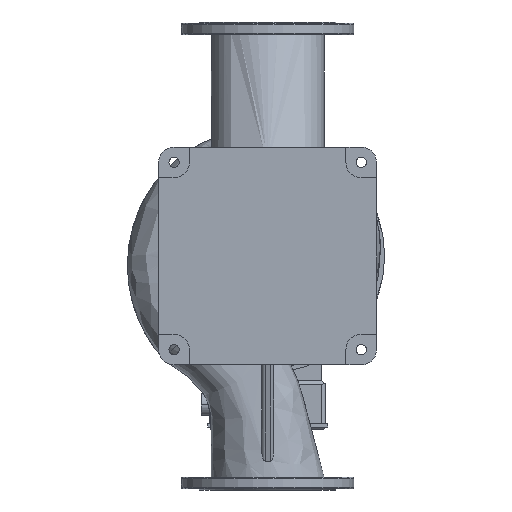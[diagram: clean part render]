
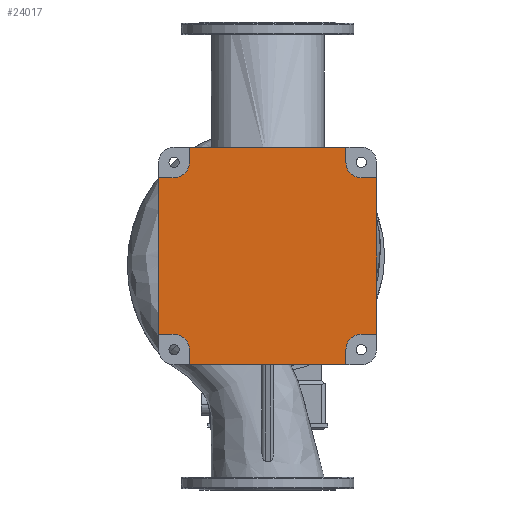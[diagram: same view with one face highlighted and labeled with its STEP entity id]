
A CAD part, front view. The second image highlights one B-rep face of the part: STEP entity #24017.
In plain terms, the highlighted planar face has unit normal (0, -1, 0).
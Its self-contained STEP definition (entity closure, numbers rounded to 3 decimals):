
#206 = CIRCLE ( 'NONE', #3620, 36. ) ;
#363 = VECTOR ( 'NONE', #19562, 1000. ) ;
#365 = CIRCLE ( 'NONE', #20382, 36. ) ;
#947 = ORIENTED_EDGE ( 'NONE', *, *, #5290, .T. ) ;
#1268 = EDGE_CURVE ( 'NONE', #28407, #1900, #18909, .T. ) ;
#1366 = VECTOR ( 'NONE', #1627, 1000. ) ;
#1627 = DIRECTION ( 'NONE',  ( 1., 0., 0. ) ) ;
#1850 = VERTEX_POINT ( 'NONE', #33059 ) ;
#1900 = VERTEX_POINT ( 'NONE', #27664 ) ;
#1933 = EDGE_CURVE ( 'NONE', #1850, #28407, #28373, .T. ) ;
#2550 = LINE ( 'NONE', #18853, #22668 ) ;
#2614 = DIRECTION ( 'NONE',  ( 0., 0., 1. ) ) ;
#2653 = DIRECTION ( 'NONE',  ( 0., 0., 1. ) ) ;
#2705 = ORIENTED_EDGE ( 'NONE', *, *, #25470, .T. ) ;
#2847 = VERTEX_POINT ( 'NONE', #24256 ) ;
#3620 = AXIS2_PLACEMENT_3D ( 'NONE', #18561, #13550, #2614 ) ;
#4035 = CARTESIAN_POINT ( 'NONE',  ( -256., -295., -184. ) ) ;
#4393 = CARTESIAN_POINT ( 'NONE',  ( -184., -295., 220. ) ) ;
#4562 = ORIENTED_EDGE ( 'NONE', *, *, #15443, .T. ) ;
#4995 = DIRECTION ( 'NONE',  ( -1., 0., 0. ) ) ;
#5106 = DIRECTION ( 'NONE',  ( 0., 0., 1. ) ) ;
#5144 = VECTOR ( 'NONE', #32191, 1000. ) ;
#5290 = EDGE_CURVE ( 'NONE', #19087, #16352, #21449, .T. ) ;
#5344 = CARTESIAN_POINT ( 'NONE',  ( -184., -295., 256. ) ) ;
#6198 = EDGE_CURVE ( 'NONE', #28721, #14593, #18804, .T. ) ;
#6584 = CARTESIAN_POINT ( 'NONE',  ( 256., -295., -184. ) ) ;
#6931 = DIRECTION ( 'NONE',  ( 0., 0., -1. ) ) ;
#7057 = DIRECTION ( 'NONE',  ( 0., 0., 1. ) ) ;
#7066 = PLANE ( 'NONE',  #19263 ) ;
#7423 = DIRECTION ( 'NONE',  ( 0., 1., 0. ) ) ;
#7488 = LINE ( 'NONE', #15564, #35282 ) ;
#7498 = VECTOR ( 'NONE', #30529, 1000. ) ;
#8739 = CARTESIAN_POINT ( 'NONE',  ( 220., -295., -184. ) ) ;
#8894 = LINE ( 'NONE', #4035, #10956 ) ;
#9600 = ORIENTED_EDGE ( 'NONE', *, *, #29263, .T. ) ;
#10050 = VERTEX_POINT ( 'NONE', #21392 ) ;
#10344 = ORIENTED_EDGE ( 'NONE', *, *, #26835, .T. ) ;
#10956 = VECTOR ( 'NONE', #22876, 1000. ) ;
#11350 = CARTESIAN_POINT ( 'NONE',  ( 220., -295., 184. ) ) ;
#11629 = CARTESIAN_POINT ( 'NONE',  ( 184., -295., 220. ) ) ;
#12425 = EDGE_CURVE ( 'NONE', #32686, #27509, #33492, .T. ) ;
#12456 = DIRECTION ( 'NONE',  ( 0., 1., 0. ) ) ;
#12667 = LINE ( 'NONE', #34181, #24397 ) ;
#13550 = DIRECTION ( 'NONE',  ( 0., 1., 0. ) ) ;
#14593 = VERTEX_POINT ( 'NONE', #15654 ) ;
#14779 = VERTEX_POINT ( 'NONE', #15266 ) ;
#15266 = CARTESIAN_POINT ( 'NONE',  ( -256., -295., 184. ) ) ;
#15443 = EDGE_CURVE ( 'NONE', #33035, #14779, #7488, .T. ) ;
#15564 = CARTESIAN_POINT ( 'NONE',  ( -220., -295., 184. ) ) ;
#15654 = CARTESIAN_POINT ( 'NONE',  ( -184., -295., 256. ) ) ;
#15674 = DIRECTION ( 'NONE',  ( 0., 0., 1. ) ) ;
#16178 = ORIENTED_EDGE ( 'NONE', *, *, #1268, .T. ) ;
#16248 = DIRECTION ( 'NONE',  ( 0., 1., 0. ) ) ;
#16352 = VERTEX_POINT ( 'NONE', #20599 ) ;
#16836 = EDGE_CURVE ( 'NONE', #16352, #32686, #12667, .T. ) ;
#17303 = CARTESIAN_POINT ( 'NONE',  ( 220., -295., 220. ) ) ;
#17337 = VERTEX_POINT ( 'NONE', #25640 ) ;
#17641 = ORIENTED_EDGE ( 'NONE', *, *, #25666, .T. ) ;
#17913 = ORIENTED_EDGE ( 'NONE', *, *, #16836, .T. ) ;
#18058 = CARTESIAN_POINT ( 'NONE',  ( -184., -295., -220. ) ) ;
#18235 = EDGE_CURVE ( 'NONE', #14593, #30248, #20347, .T. ) ;
#18561 = CARTESIAN_POINT ( 'NONE',  ( -220., -295., -220. ) ) ;
#18646 = EDGE_LOOP ( 'NONE', ( #9600, #35355, #25727, #16178, #21011, #25819, #947, #17913, #19020, #2705, #23393, #23212, #24933, #4562, #10344, #17641 ) ) ;
#18804 = LINE ( 'NONE', #5344, #32119 ) ;
#18853 = CARTESIAN_POINT ( 'NONE',  ( 184., -295., 220. ) ) ;
#18909 = LINE ( 'NONE', #35393, #29153 ) ;
#19020 = ORIENTED_EDGE ( 'NONE', *, *, #12425, .T. ) ;
#19044 = CARTESIAN_POINT ( 'NONE',  ( 184., -295., -256. ) ) ;
#19087 = VERTEX_POINT ( 'NONE', #6584 ) ;
#19263 = AXIS2_PLACEMENT_3D ( 'NONE', #34844, #7423, #15674 ) ;
#19562 = DIRECTION ( 'NONE',  ( 1., 0., 0. ) ) ;
#19597 = CARTESIAN_POINT ( 'NONE',  ( 184., -295., -256. ) ) ;
#19653 = DIRECTION ( 'NONE',  ( 0., 0., 1. ) ) ;
#20167 = VECTOR ( 'NONE', #6931, 1000. ) ;
#20347 = LINE ( 'NONE', #4393, #28425 ) ;
#20382 = AXIS2_PLACEMENT_3D ( 'NONE', #30065, #16248, #2653 ) ;
#20599 = CARTESIAN_POINT ( 'NONE',  ( 256., -295., 184. ) ) ;
#20647 = EDGE_CURVE ( 'NONE', #33674, #19087, #23484, .T. ) ;
#21011 = ORIENTED_EDGE ( 'NONE', *, *, #23936, .T. ) ;
#21392 = CARTESIAN_POINT ( 'NONE',  ( -256., -295., -184. ) ) ;
#21449 = LINE ( 'NONE', #26817, #5144 ) ;
#21550 = CARTESIAN_POINT ( 'NONE',  ( -220., -295., 184. ) ) ;
#21973 = AXIS2_PLACEMENT_3D ( 'NONE', #31442, #12456, #7057 ) ;
#22668 = VECTOR ( 'NONE', #31959, 1000. ) ;
#22714 = DIRECTION ( 'NONE',  ( 0., 1., 0. ) ) ;
#22876 = DIRECTION ( 'NONE',  ( 0., 0., -1. ) ) ;
#23125 = CIRCLE ( 'NONE', #21973, 36. ) ;
#23212 = ORIENTED_EDGE ( 'NONE', *, *, #18235, .T. ) ;
#23393 = ORIENTED_EDGE ( 'NONE', *, *, #6198, .T. ) ;
#23484 = LINE ( 'NONE', #25994, #1366 ) ;
#23936 = EDGE_CURVE ( 'NONE', #1900, #33674, #365, .T. ) ;
#24017 = ADVANCED_FACE ( 'NONE', ( #35015 ), #7066, .F. ) ;
#24161 = CARTESIAN_POINT ( 'NONE',  ( 184., -295., 256. ) ) ;
#24256 = CARTESIAN_POINT ( 'NONE',  ( -184., -295., -220. ) ) ;
#24329 = AXIS2_PLACEMENT_3D ( 'NONE', #17303, #22714, #19653 ) ;
#24397 = VECTOR ( 'NONE', #25932, 1000. ) ;
#24933 = ORIENTED_EDGE ( 'NONE', *, *, #29879, .T. ) ;
#25470 = EDGE_CURVE ( 'NONE', #27509, #28721, #2550, .T. ) ;
#25640 = CARTESIAN_POINT ( 'NONE',  ( -220., -295., -184. ) ) ;
#25666 = EDGE_CURVE ( 'NONE', #10050, #17337, #27626, .T. ) ;
#25727 = ORIENTED_EDGE ( 'NONE', *, *, #1933, .T. ) ;
#25819 = ORIENTED_EDGE ( 'NONE', *, *, #20647, .T. ) ;
#25893 = DIRECTION ( 'NONE',  ( 0., 0., -1. ) ) ;
#25932 = DIRECTION ( 'NONE',  ( -1., 0., 0. ) ) ;
#25994 = CARTESIAN_POINT ( 'NONE',  ( 220., -295., -184. ) ) ;
#26699 = DIRECTION ( 'NONE',  ( -1., 0., 0. ) ) ;
#26817 = CARTESIAN_POINT ( 'NONE',  ( 256., -295., 184. ) ) ;
#26835 = EDGE_CURVE ( 'NONE', #14779, #10050, #8894, .T. ) ;
#27509 = VERTEX_POINT ( 'NONE', #11629 ) ;
#27626 = LINE ( 'NONE', #32832, #363 ) ;
#27664 = CARTESIAN_POINT ( 'NONE',  ( 184., -295., -220. ) ) ;
#28373 = LINE ( 'NONE', #19597, #7498 ) ;
#28407 = VERTEX_POINT ( 'NONE', #19044 ) ;
#28425 = VECTOR ( 'NONE', #25893, 1000. ) ;
#28721 = VERTEX_POINT ( 'NONE', #24161 ) ;
#29153 = VECTOR ( 'NONE', #5106, 1000. ) ;
#29263 = EDGE_CURVE ( 'NONE', #17337, #2847, #206, .T. ) ;
#29879 = EDGE_CURVE ( 'NONE', #30248, #33035, #23125, .T. ) ;
#30065 = CARTESIAN_POINT ( 'NONE',  ( 220., -295., -220. ) ) ;
#30248 = VERTEX_POINT ( 'NONE', #32150 ) ;
#30529 = DIRECTION ( 'NONE',  ( 1., 0., 0. ) ) ;
#31325 = LINE ( 'NONE', #18058, #20167 ) ;
#31442 = CARTESIAN_POINT ( 'NONE',  ( -220., -295., 220. ) ) ;
#31959 = DIRECTION ( 'NONE',  ( 0., 0., 1. ) ) ;
#32119 = VECTOR ( 'NONE', #26699, 1000. ) ;
#32150 = CARTESIAN_POINT ( 'NONE',  ( -184., -295., 220. ) ) ;
#32191 = DIRECTION ( 'NONE',  ( 0., 0., 1. ) ) ;
#32686 = VERTEX_POINT ( 'NONE', #11350 ) ;
#32832 = CARTESIAN_POINT ( 'NONE',  ( -220., -295., -184. ) ) ;
#33035 = VERTEX_POINT ( 'NONE', #21550 ) ;
#33059 = CARTESIAN_POINT ( 'NONE',  ( -184., -295., -256. ) ) ;
#33492 = CIRCLE ( 'NONE', #24329, 36. ) ;
#33674 = VERTEX_POINT ( 'NONE', #8739 ) ;
#33800 = EDGE_CURVE ( 'NONE', #2847, #1850, #31325, .T. ) ;
#34181 = CARTESIAN_POINT ( 'NONE',  ( 220., -295., 184. ) ) ;
#34844 = CARTESIAN_POINT ( 'NONE',  ( -220., -295., -220. ) ) ;
#35015 = FACE_OUTER_BOUND ( 'NONE', #18646, .T. ) ;
#35282 = VECTOR ( 'NONE', #4995, 1000. ) ;
#35355 = ORIENTED_EDGE ( 'NONE', *, *, #33800, .T. ) ;
#35393 = CARTESIAN_POINT ( 'NONE',  ( 184., -295., -220. ) ) ;
